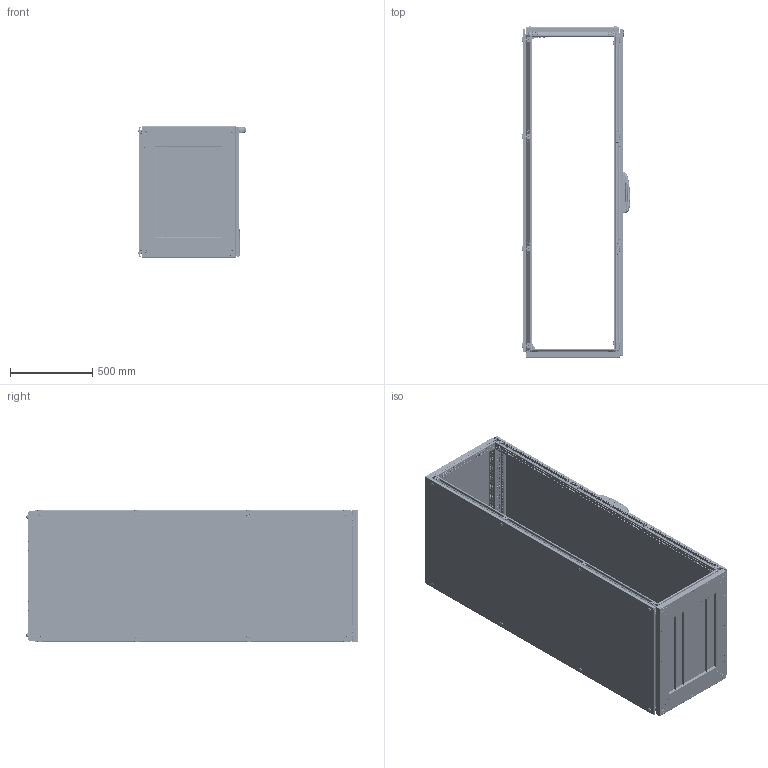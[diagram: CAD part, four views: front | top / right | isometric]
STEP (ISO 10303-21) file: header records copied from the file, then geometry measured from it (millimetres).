
FILE_DESCRIPTION (( 'STEP AP214' ), '1' );
FILE_NAME ('T200806S - 2000 H X 800 W X 600 D.STEP', '2026-09-11T14:30:27', ( '' ), ( '' ), 'SwSTEP 2.0', 'SolidWorks 2025', '' );
FILE_SCHEMA (( 'AUTOMOTIVE_DESIGN' ));
Length unit declared in the file: millimetre
Products named in the file (96): Front Door Plastic Screw Holder; Base width with rivet_PP 12.0020 - 800; MP 14.0006 SEALING GASKET; M6 KAFES SOMU; pan cross head_am1_B18.6.7M - M5 x 0.8 x 10 Type I Cross Recessed PHMS --10N; MP 25.0029 TEOS ORTA KİLİT DİLİ; Base depth with rivet_PP 12.0025 - 600; PB 14.0004 M6 Countersunk Plastic Screw Holder; DDENEME5DENEME4TEOS Kilit Çubuk Dili; CORNER BRACKET 2; flat head screw_am_B18.6.7M - M6 x 1.0 x 30 Type I Cross Recessed FHMS --30N; Crossmember Frontdoor_800x2000; PM 25.0040 WITH CAGE NUT TEOS SIDE AND REAR PANEL BRACKET - MIDDLE; PM 25.0042 HINGE BRACKET WITH CAGE NUT TOP - MIDDLE; kafes somun kafes; kafes somun kafes 2025; Swinghandle Lock Double BIT_2000; PM 25.0037 WITH CAGE NUT TEOS LOCK BRACKET TOP-BOTTOM; socket head cap screw_am_B18.3.1M - 8 x 1.25 x 35 Hex SHCS -- 35NHX; DDENEME5DENEME4MP 18.7631 Arka Kapak; socket button head cap screw_am_B18.3.4M - 12 x 1.75 x 30 SBHCS --N; Front Name Slat_800; ENINE DELIKLI PROFIL_800; TEOS FRAME_800; TEOS-NEO MP Left Support Plastic Wedge; Teos-Neo Mounting Plate Right Bracket Mounting_Standart Pozisyon; 03-KOSE PUNT_PP 12.0027; DDENEME5DENEME4AynalamaTEOS Kilit Çubuk Dili-1; m6 fiber nut; somu; MP 25.0028 TEOS ALT - ÜST KİLİT DİLİ; DDENEME5DENEME4AynalamaTEOS Kilit Çubuk Pimi-1; DDENEME5DENEME4MP 18.7631 Modul; MP 14.0007 M6 PLASTİK HAVSA; mp aLT DAYAMA_PP 12.0093 - 600; MP 25.0027 TEOS MENTEŞE ORTA; Teos-Neo MP Durdurucu Destek; DDENEME5DENEME4MP 18.7631 204 handle REV04 tekpan logo; torque nut 01_isoo_ISO 7040-M6-N; PM 25.0038 WITH CAGE NUT TEOS LOCK BRACKET TOP-MIDDLE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
Assembly tree (322 placements, depth 5):
  T200806S -  2000 H X 800 W X 600 D
    TEOS FRAME ASSEMBLY_800x2000x600
      TEOS FRAME_2000   x4
      TEOS FRAME_600  x4
      TEOS FRAME_800  x4
      L CORNER SUPPORT  x8
      CORNER BRACKET  x15
      CORNER BRACKET 2
      MP 11.0140 TEOS ALUMINIUM CORNER  x8
      M5 SQUARE WASHER  x16
      Riveted Base_701.860-80X60 ALT
        Base width with rivet_PP 12.0020 - 800  x2
        Base depth with rivet_PP 12.0025 - 600  x2
        03-KOSE PUNT_PP 12.0027
        03-KOSE PUNT
        Mirror03-KOSE PUNT  x2
        03-TABAN SACI SURGU_PP 12.0031 - 800  x2
        03-TABAN SACI U1 04-2012_PP 12.0041 -800-75
        03-TABAN SACI U1 04-2012_PP 12.0036 -800-200
        mp aLT DAYAMA_PP 12.0093 - 600  x2
      socket button head cap screw_am_B18.3.4M - 8 x 1.25 x 16 SBHCS --N  x53
      pan cross head_am1_B18.6.7M - M5 x 0.8 x 10 Type I Cross Recessed PHMS --10N  x23
      B18.3.5M - 5 x 0.8 x 10 Socket FCHS  -- 10N_B18.3.5M - 5 x 0.8 x 10 Socket FCHS  -- 10N  x16
      PM 25.0039 WITH CAGE NUT TEOS SIDE AND REAR PANEL BRACKET TOP - BOTTOM  x4
        MP 25.0030 TEOS YAN VE ARKA KAPAK BAĞLANTI SACI ALT - ÜST
        M6 KAFES SOMU2015 2025
          kafes somun kafes 2025
          somu 2025
      PM 25.0040 WITH CAGE NUT TEOS SIDE AND REAR PANEL BRACKET - MIDDLE  x4
        MP 25.0031 TEOS YAN VE ARKA KAPAK BAĞLANTI SACI ORTA
        M6 KAFES SOMU2015 2025
          kafes somun kafes 2025
          somu 2025
      PM 25.0037 WITH CAGE NUT TEOS LOCK BRACKET TOP-BOTTOM  x2
        MP 25.0028 TEOS ALT - ÜST KİLİT DİLİ
        M6 KAFES SOMU2015 2025
          kafes somun kafes 2025
          somu 2025
      PM 25.0038 WITH CAGE NUT TEOS LOCK BRACKET TOP-MIDDLE  x2
        MP 25.0029 TEOS ORTA KİLİT DİLİ
        M6 KAFES SOMU2015 2025
          kafes somun kafes 2025
          somu 2025
      PM 25.0041 HINGE BRACKET WITH CAGE NUT TOP - BOTTOM  x2
        MP 25.0026 TEOS MENTEŞE ALT - ÜST
        M6 KAFES SOMU
          kafes somun kafes
          somu
      PM 25.0042 HINGE BRACKET WITH CAGE NUT TOP - MIDDLE  x2
        MP 25.0027 TEOS MENTEŞE ORTA
        M6 KAFES SOMU2015 2025
          kafes somun kafes 2025
          somu 2025
    TEOS TOP COVER_PP 12.0010 800X600 
    TEOS FRONT DOOR_800x2000
      Front Door 2 mm DKP_PP 17.1089 800x2000
      Front Door Plastic Screw Holder  x4
      Crossmember Frontdoor_800x2000
        ENINE DELIKLI PROFIL_800  x2
        BOYUNA DELIKLI PROFIL_2000  x2
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Bounding box: 658.18 x 2018.08 x 801.56 mm (x, y, z)
Volume: 18663019.5 mm3; surface area: 18642965.2 mm2
Topology: 346 solids, 386 shells, 46581 faces, 125086 edges, 78853 vertices
Faces by surface type: plane 28254, cylinder 13446, bspline 2261, cone 1096, torus 901, sphere 623
Entity records: 621732 total; most frequent: CARTESIAN_POINT 286311, ORIENTED_EDGE 70952, DIRECTION 65575, EDGE_CURVE 35476, VERTEX_POINT 22640, AXIS2_PLACEMENT_3D 21917, VECTOR 21741, LINE 21741
